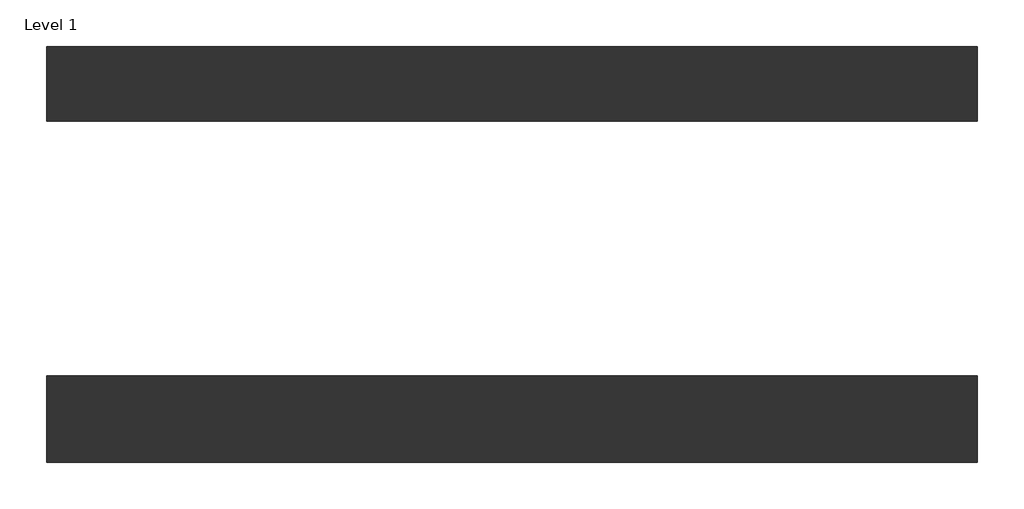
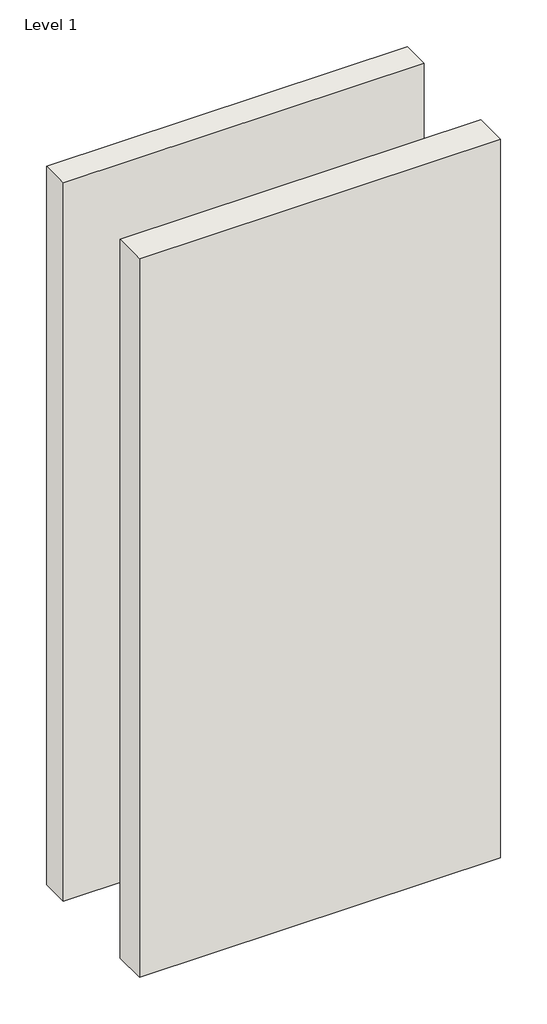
# One storey: 2 walls.
"""IFC4 building model written with IfcOpenShell, lengths in millimetres."""

import ifcopenshell
import ifcopenshell.guid

model = None  # the IFC model being written
_history = None  # IfcOwnerHistory: only IFC2X3 demands one
_inside = {}  # id of a spatial element -> (the spatial element, [elements in it])
_under = {}  # id of a project, library or spatial element -> (it, [spatial elements below it])
_declared = {}  # id of a project -> (the project, [libraries it declares])
_typed = {}  # id of a type object -> (the type object, [elements of that type])
_made_of = {}  # id of a material, layer set ... -> (it, [elements and type objects made of it])


def new_model(schema):
    """Start an empty IFC model of exactly this schema.

    Asked for "IFC4X3", IfcOpenShell would pick the latest addendum, in which some entities
    have other attributes; the version numbers below select the first issue.
    IFC2X3 requires an IfcOwnerHistory on every rooted entity: one is made here for all.
    """
    global model, _history
    if schema == "IFC4X3":
        model = ifcopenshell.file(schema_version=(4, 3, 0, 0))
    else:
        model = ifcopenshell.file(schema=schema)
    _inside.clear()
    _under.clear()
    _declared.clear()
    _typed.clear()
    _made_of.clear()
    _history = None
    if model.schema == "IFC2X3":
        org = make("IfcOrganization", Name="unknown")
        user = make(
            "IfcPersonAndOrganization",
            ThePerson=make("IfcPerson", FamilyName="unknown"),
            TheOrganization=org,
        )
        app = make(
            "IfcApplication",
            ApplicationDeveloper=org,
            Version="unknown",
            ApplicationFullName="unknown",
            ApplicationIdentifier="unknown",
        )
        _history = make(
            "IfcOwnerHistory",
            OwningUser=user,
            OwningApplication=app,
            ChangeAction="ADDED",
            CreationDate=0,
        )
    return model


def make(cls, **values):
    """One entity of the class cls with the attributes given. An attribute that is None is left unset."""
    return model.create_entity(
        cls, **{name: value for name, value in values.items() if value is not None}
    )


def rooted(cls, **values):
    """An entity with a GlobalId (a new one), such as an element, a storey or a relation."""
    return make(cls, GlobalId=ifcopenshell.guid.new(), OwnerHistory=_history, **values)


def si_unit(unit_type, name, prefix=None):
    """IfcSIUnit, for example si_unit("LENGTHUNIT", "METRE", prefix="MILLI")."""
    return make("IfcSIUnit", UnitType=unit_type, Prefix=prefix, Name=name)


def assignment(units):
    """IfcUnitAssignment: the units of a project."""
    return None if units is None else make("IfcUnitAssignment", Units=units)


def point(xyz):
    """IfcCartesianPoint."""
    return None if xyz is None else make("IfcCartesianPoint", Coordinates=xyz)


def direction(xyz):
    """IfcDirection."""
    return None if xyz is None else make("IfcDirection", DirectionRatios=xyz)


def frame(location, z_axis=None, x_axis=None):
    """IfcAxis2Placement3D, a coordinate frame: its origin and axes. An axis left out is left unset."""
    return make(
        "IfcAxis2Placement3D",
        Location=point(location),
        Axis=direction(z_axis),
        RefDirection=direction(x_axis),
    )


def origin():
    """The frame at (0, 0, 0) with its axes left unset."""
    return frame((0.0, 0.0, 0.0))


def origin_with_axes():
    """The frame at (0, 0, 0) with the z axis (0, 0, 1) and the x axis (1, 0, 0) written out."""
    return frame((0.0, 0.0, 0.0), z_axis=(0.0, 0.0, 1.0), x_axis=(1.0, 0.0, 0.0))


def place(relative_to, where):
    """IfcLocalPlacement: puts the frame where relative to a parent placement (None: the world)."""
    return make(
        "IfcLocalPlacement", PlacementRelTo=relative_to, RelativePlacement=where
    )


def context(
    kind, dimensions, precision=None, world=None, true_north=None, identifier=None
):
    """IfcGeometricRepresentationContext, for example the 3D "Model" context."""
    return make(
        "IfcGeometricRepresentationContext",
        ContextIdentifier=identifier,
        ContextType=kind,
        CoordinateSpaceDimension=dimensions,
        Precision=precision,
        WorldCoordinateSystem=world,
        TrueNorth=true_north,
    )


def project(units=None, contexts=None):
    """IfcProject with its units and contexts."""
    return rooted(
        "IfcProject",
        Name="project",
        RepresentationContexts=contexts,
        UnitsInContext=assignment(units),
    )


def spatial(cls, under=None, at=None, **own):
    """A site, building, storey or space (cls), placed at a placement, below another one or the project."""
    s = rooted(cls, ObjectPlacement=at, **own)
    if under is not None:
        _under.setdefault(under.id(), (under, []))[1].append(s)
    return s


def polyline(points):
    """IfcPolyline through the points."""
    return make("IfcPolyline", Points=[point(p) for p in points])


def outline(outer, holes=None, kind="AREA"):
    """IfcArbitraryClosedProfileDef: a profile drawn as a closed curve; with holes, ...WithVoids."""
    if holes is None:
        return make("IfcArbitraryClosedProfileDef", ProfileType=kind, OuterCurve=outer)
    return make(
        "IfcArbitraryProfileDefWithVoids",
        ProfileType=kind,
        OuterCurve=outer,
        InnerCurves=holes,
    )


def extrude(swept, where, along, depth):
    """IfcExtrudedAreaSolid: the profile swept, set in the frame where, extruded along a direction by depth."""
    return make(
        "IfcExtrudedAreaSolid",
        SweptArea=swept,
        Position=where,
        ExtrudedDirection=direction(along),
        Depth=depth,
    )


def shape(context_of_items, identifier, shape_type, items):
    """IfcShapeRepresentation: the items that make up one representation, for example the "Body"."""
    return make(
        "IfcShapeRepresentation",
        ContextOfItems=context_of_items,
        RepresentationIdentifier=identifier,
        RepresentationType=shape_type,
        Items=items,
    )


def made_of(thing, what):
    """Note that an element or type object is made of a material, layer set ...; save() writes the relation."""
    if what is not None:
        _made_of.setdefault(what.id(), (what, []))[1].append(thing)
    return thing


def element(
    cls,
    number,
    at=None,
    inside=None,
    cuts=None,
    type_object=None,
    material=None,
    context=None,
    identifier="Body",
    shape_type=None,
    held_by="IfcProductDefinitionShape",
    body=None,
    shapes=None,
    **own,
):
    """One element of the class cls, such as IfcWall. Its Tag is "e" and its number.

    at: its placement. inside: the storey or other place that contains it. cuts: it is an
    opening in that element (IfcRelVoidsElement). A single representation is given by context,
    identifier, shape_type and body (its items); several are given by shapes. held_by: the class
    of the entity that holds the representations. save() writes the other relations.
    """
    e = rooted(cls, Tag="e%d" % number, ObjectPlacement=at, **own)
    if body is not None:
        shapes = [shape(context, identifier, shape_type, body)]
    if shapes is not None:
        e.Representation = make(held_by, Representations=shapes)
    if inside is not None:
        _inside.setdefault(inside.id(), (inside, []))[1].append(e)
    if cuts is not None:
        rooted(
            "IfcRelVoidsElement", RelatingBuildingElement=cuts, RelatedOpeningElement=e
        )
    if type_object is not None:
        _typed.setdefault(type_object.id(), (type_object, []))[1].append(e)
    return made_of(e, material)


def aggregate(whole, parts):
    """IfcRelAggregates: a whole, such as a stair, and the parts it consists of."""
    return rooted("IfcRelAggregates", RelatingObject=whole, RelatedObjects=parts)


def save(model, path):
    """Write the relations noted so far, then the file.

    IfcRelAggregates (storeys below a building ...), IfcRelContainedInSpatialStructure (elements
    in a storey), IfcRelDefinesByType, IfcRelAssociatesMaterial and IfcRelDeclares: one each for
    every whole, place, type object, material and project.
    """
    for whole, parts in _under.values():
        aggregate(whole, parts)
    for where, things in _inside.values():
        rooted(
            "IfcRelContainedInSpatialStructure",
            RelatedElements=things,
            RelatingStructure=where,
        )
    for kind, things in _typed.values():
        rooted("IfcRelDefinesByType", RelatedObjects=things, RelatingType=kind)
    for what, things in _made_of.values():
        rooted("IfcRelAssociatesMaterial", RelatedObjects=things, RelatingMaterial=what)
    for by, libraries in _declared.values():
        rooted("IfcRelDeclares", RelatingContext=by, RelatedDefinitions=libraries)
    model.write(path)


model = new_model("IFC4")

# Units and contexts
model_context = context("Model", 3, world=origin())
ifc_project = project(units=[si_unit("LENGTHUNIT", "METRE", prefix="MILLI")], contexts=[model_context])

# Site, building, storey
site = spatial("IfcSite", under=ifc_project)
building = spatial("IfcBuilding", under=site)
storey = spatial("IfcBuildingStorey", under=building, Name="Level 1", Elevation=0.0)

# Walls
placement = place(None, origin())
element("IfcWall", 1, ObjectType="Steel Frame-Single Stud-CSR1430-152mm", at=placement, inside=storey, context=model_context, shape_type="SweptSolid", body=[
    extrude(outline(polyline([(-374.5286711, -1347.3914239), (1525.4713289, -1347.3914239), (1525.4713289, -1499.3914239), (-374.5286711, -1499.3914239), (-374.5286711, -1347.3914239)])), origin_with_axes(), (0.0, 0.0, 1.0), 4000.0),
])
element("IfcWall", 2, ObjectType="Steel Frame-Single Stud-CSR1430-176mm", at=placement, inside=storey, context=model_context, shape_type="SweptSolid", body=[
    extrude(outline(polyline([(-374.5286711, -2020.3914239), (1525.4713289, -2020.3914239), (1525.4713289, -2196.3914239), (-374.5286711, -2196.3914239), (-374.5286711, -2020.3914239)])), origin_with_axes(), (0.0, 0.0, 1.0), 4000.0),
])

save(model, "model.ifc")
